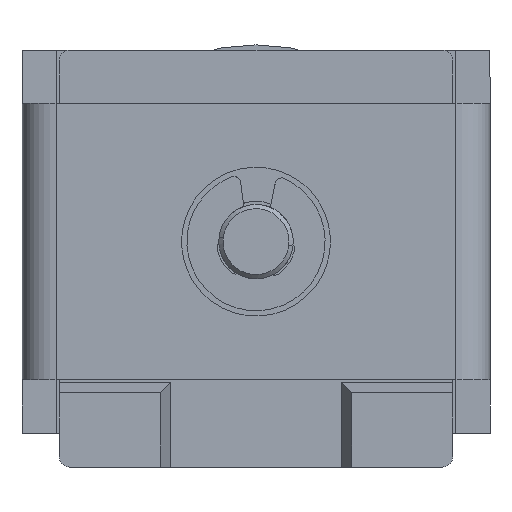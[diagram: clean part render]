
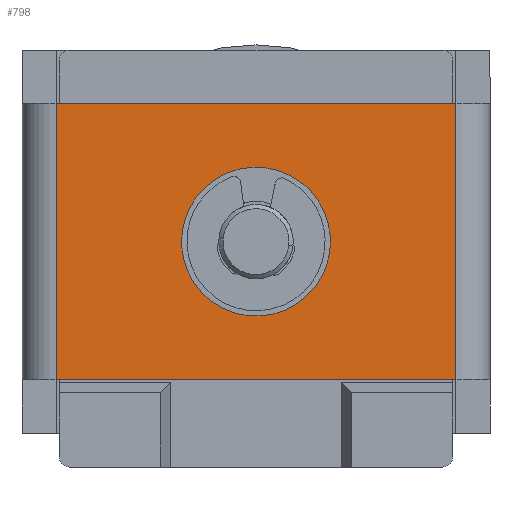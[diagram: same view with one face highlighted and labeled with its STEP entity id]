
A CAD part, front view. The second image highlights one B-rep face of the part: STEP entity #798.
In plain terms, the highlighted planar face has unit normal (0, -1, 0).
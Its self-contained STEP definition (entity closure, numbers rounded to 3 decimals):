
#60 = DIRECTION ( 'NONE',  ( 0., -1., 0. ) ) ;
#110 = DIRECTION ( 'NONE',  ( 0., 0., -1. ) ) ;
#245 = EDGE_CURVE ( 'NONE', #543, #2105, #3529, .T. ) ;
#361 = EDGE_CURVE ( 'NONE', #3393, #7857, #4476, .T. ) ;
#456 = ORIENTED_EDGE ( 'NONE', *, *, #6134, .T. ) ;
#543 = VERTEX_POINT ( 'NONE', #5156 ) ;
#612 = AXIS2_PLACEMENT_3D ( 'NONE', #4101, #60, #4774 ) ;
#673 = DIRECTION ( 'NONE',  ( 0., 1., 0. ) ) ;
#796 = ORIENTED_EDGE ( 'NONE', *, *, #3579, .T. ) ;
#798 = ADVANCED_FACE ( 'NONE', ( #5733, #2350 ), #6698, .F. ) ;
#799 = CARTESIAN_POINT ( 'NONE',  ( -9.4, -27., -15.5 ) ) ;
#903 = LINE ( 'NONE', #6876, #4514 ) ;
#972 = DIRECTION ( 'NONE',  ( 1., 0., 0. ) ) ;
#1146 = CARTESIAN_POINT ( 'NONE',  ( 9.4, -27., -2.5 ) ) ;
#1697 = ORIENTED_EDGE ( 'NONE', *, *, #2582, .T. ) ;
#2009 = CARTESIAN_POINT ( 'NONE',  ( -9.4, -27., -15.5 ) ) ;
#2105 = VERTEX_POINT ( 'NONE', #8671 ) ;
#2208 = CARTESIAN_POINT ( 'NONE',  ( 0., -27., -9. ) ) ;
#2229 = VECTOR ( 'NONE', #6414, 1000. ) ;
#2350 = FACE_OUTER_BOUND ( 'NONE', #5086, .T. ) ;
#2582 = EDGE_CURVE ( 'NONE', #7857, #4188, #7211, .T. ) ;
#2689 = VECTOR ( 'NONE', #972, 1000. ) ;
#2881 = DIRECTION ( 'NONE',  ( 0., 0., 1. ) ) ;
#2946 = CIRCLE ( 'NONE', #8425, 2.5 ) ;
#3393 = VERTEX_POINT ( 'NONE', #799 ) ;
#3454 = EDGE_CURVE ( 'NONE', #2105, #543, #2946, .T. ) ;
#3489 = VECTOR ( 'NONE', #7388, 1000. ) ;
#3529 = CIRCLE ( 'NONE', #612, 2.5 ) ;
#3579 = EDGE_CURVE ( 'NONE', #4188, #3625, #7079, .T. ) ;
#3625 = VERTEX_POINT ( 'NONE', #4180 ) ;
#3728 = CARTESIAN_POINT ( 'NONE',  ( 9.4, -27., -9. ) ) ;
#3927 = EDGE_LOOP ( 'NONE', ( #8304, #5947 ) ) ;
#4101 = CARTESIAN_POINT ( 'NONE',  ( 0., -27., -9. ) ) ;
#4180 = CARTESIAN_POINT ( 'NONE',  ( -9.4, -27., -2.5 ) ) ;
#4188 = VERTEX_POINT ( 'NONE', #1146 ) ;
#4345 = CARTESIAN_POINT ( 'NONE',  ( 0., -27., -15.5 ) ) ;
#4476 = LINE ( 'NONE', #4345, #2689 ) ;
#4514 = VECTOR ( 'NONE', #110, 1000. ) ;
#4774 = DIRECTION ( 'NONE',  ( 0., 0., 1. ) ) ;
#5086 = EDGE_LOOP ( 'NONE', ( #1697, #796, #456, #7264 ) ) ;
#5156 = CARTESIAN_POINT ( 'NONE',  ( 0., -27., -11.5 ) ) ;
#5394 = DIRECTION ( 'NONE',  ( 0., 0., 1. ) ) ;
#5733 = FACE_BOUND ( 'NONE', #3927, .T. ) ;
#5947 = ORIENTED_EDGE ( 'NONE', *, *, #245, .F. ) ;
#6134 = EDGE_CURVE ( 'NONE', #3625, #3393, #903, .T. ) ;
#6414 = DIRECTION ( 'NONE',  ( 0., 0., 1. ) ) ;
#6698 = PLANE ( 'NONE',  #6779 ) ;
#6779 = AXIS2_PLACEMENT_3D ( 'NONE', #2009, #673, #5394 ) ;
#6876 = CARTESIAN_POINT ( 'NONE',  ( -9.4, -27., -9. ) ) ;
#6915 = CARTESIAN_POINT ( 'NONE',  ( 9.4, -27., -15.5 ) ) ;
#6947 = DIRECTION ( 'NONE',  ( 0., -1., 0. ) ) ;
#7079 = LINE ( 'NONE', #8066, #3489 ) ;
#7211 = LINE ( 'NONE', #3728, #2229 ) ;
#7264 = ORIENTED_EDGE ( 'NONE', *, *, #361, .T. ) ;
#7388 = DIRECTION ( 'NONE',  ( -1., 0., 0. ) ) ;
#7857 = VERTEX_POINT ( 'NONE', #6915 ) ;
#8066 = CARTESIAN_POINT ( 'NONE',  ( 0., -27., -2.5 ) ) ;
#8304 = ORIENTED_EDGE ( 'NONE', *, *, #3454, .F. ) ;
#8425 = AXIS2_PLACEMENT_3D ( 'NONE', #2208, #6947, #2881 ) ;
#8671 = CARTESIAN_POINT ( 'NONE',  ( 0., -27., -6.5 ) ) ;
